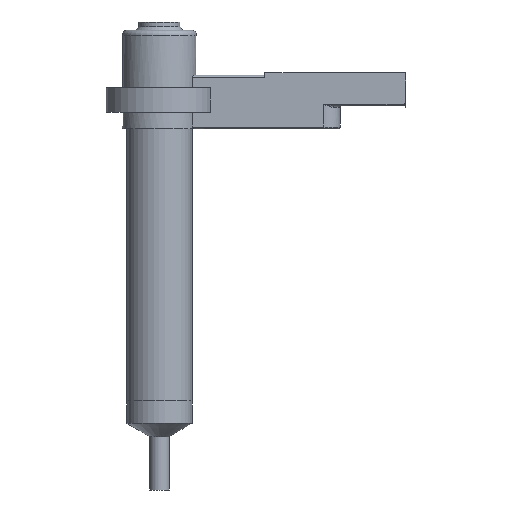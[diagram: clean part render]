
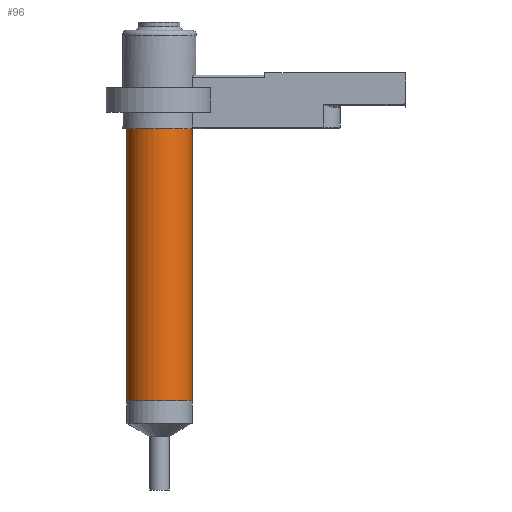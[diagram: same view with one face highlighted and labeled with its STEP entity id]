
A CAD part, front view. The second image highlights one B-rep face of the part: STEP entity #96.
In plain terms, the highlighted cylindrical face has radius 20 mm (diameter 40 mm), a full revolution.
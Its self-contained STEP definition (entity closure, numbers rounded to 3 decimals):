
#96=ADVANCED_FACE('',(#216,#217),#218,.T.);
#216=FACE_OUTER_BOUND('',#516,.T.);
#217=FACE_OUTER_BOUND('',#517,.T.);
#218=CYLINDRICAL_SURFACE('',#518,20.0);
#516=EDGE_LOOP('',(#887));
#517=EDGE_LOOP('',(#888));
#518=AXIS2_PLACEMENT_3D('',#889,#890,#891);
#887=ORIENTED_EDGE('',*,*,#1171,.T.);
#888=ORIENTED_EDGE('',*,*,#1173,.F.);
#889=CARTESIAN_POINT('',(0.,0.0,-230.75));
#890=DIRECTION('',(-0.0,-0.0,-1.0));
#891=DIRECTION('',(1.0,0.0,0.0));
#1171=EDGE_CURVE('',#1343,#1343,#1344,.T.);
#1173=EDGE_CURVE('',#1346,#1346,#1347,.T.);
#1343=VERTEX_POINT('',#1709);
#1344=CIRCLE('',#1710,20.0);
#1346=VERTEX_POINT('',#1712);
#1347=CIRCLE('',#1713,20.0);
#1709=CARTESIAN_POINT('',(20.,0.0,-230.75));
#1710=AXIS2_PLACEMENT_3D('',#1954,#1955,#1956);
#1712=CARTESIAN_POINT('',(20.,0.0,-65.0));
#1713=AXIS2_PLACEMENT_3D('',#1957,#1958,#1959);
#1954=CARTESIAN_POINT('',(0.,0.0,-230.75));
#1955=DIRECTION('',(0.0,0.0,1.0));
#1956=DIRECTION('',(1.0,0.0,0.0));
#1957=CARTESIAN_POINT('',(0.,0.0,-65.0));
#1958=DIRECTION('',(0.0,0.0,1.0));
#1959=DIRECTION('',(1.0,0.0,0.0));
